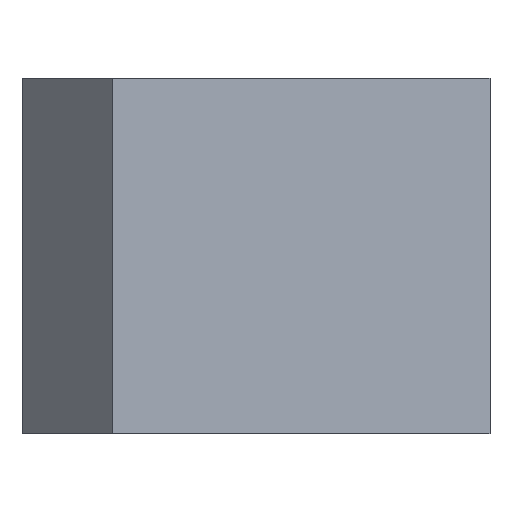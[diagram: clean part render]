
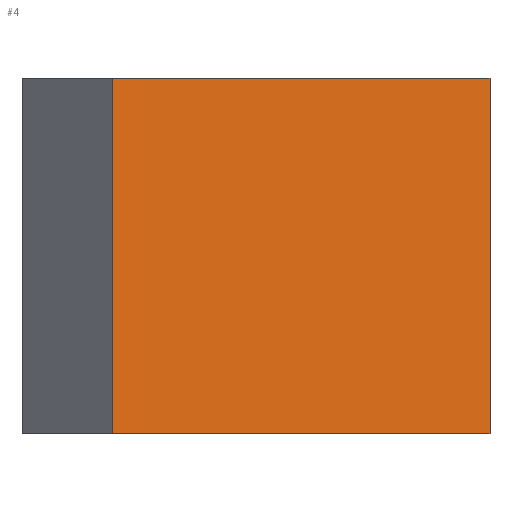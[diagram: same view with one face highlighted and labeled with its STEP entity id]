
A CAD part, left-side view. The second image highlights one B-rep face of the part: STEP entity #4.
In plain terms, the highlighted planar face has unit normal (-0.737, -0.676, 0).
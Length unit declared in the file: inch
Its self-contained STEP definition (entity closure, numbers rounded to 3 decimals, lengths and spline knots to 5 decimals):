
#4 = ADVANCED_FACE ( 'NONE', ( #481 ), #55, .T. ) ;
#11 = EDGE_CURVE ( 'NONE', #213, #404, #250, .T. ) ;
#12 = DIRECTION ( 'NONE',  ( 0.676, -0.737, 0. ) ) ;
#14 = LINE ( 'NONE', #100, #210 ) ;
#35 = ORIENTED_EDGE ( 'NONE', *, *, #11, .F. ) ;
#55 = PLANE ( 'NONE',  #278 ) ;
#61 = DIRECTION ( 'NONE',  ( 0.676, -0.737, 0. ) ) ;
#88 = EDGE_CURVE ( 'NONE', #404, #365, #226, .T. ) ;
#100 = CARTESIAN_POINT ( 'NONE',  ( -4.907, 0., -1. ) ) ;
#115 = EDGE_CURVE ( 'NONE', #370, #365, #14, .T. ) ;
#149 = CARTESIAN_POINT ( 'NONE',  ( -4.907, 0., 0. ) ) ;
#164 = ORIENTED_EDGE ( 'NONE', *, *, #115, .T. ) ;
#178 = DIRECTION ( 'NONE',  ( 0., 0., 1. ) ) ;
#210 = VECTOR ( 'NONE', #178, 39.37008 ) ;
#213 = VERTEX_POINT ( 'NONE', #337 ) ;
#226 = LINE ( 'NONE', #342, #334 ) ;
#250 = LINE ( 'NONE', #485, #414 ) ;
#269 = CARTESIAN_POINT ( 'NONE',  ( -4.907, 0., -1. ) ) ;
#278 = AXIS2_PLACEMENT_3D ( 'NONE', #416, #292, #12 ) ;
#292 = DIRECTION ( 'NONE',  ( -0.737, -0.676, 0. ) ) ;
#295 = VECTOR ( 'NONE', #61, 39.37008 ) ;
#329 = ORIENTED_EDGE ( 'NONE', *, *, #402, .T. ) ;
#332 = DIRECTION ( 'NONE',  ( 0.676, -0.737, 0. ) ) ;
#334 = VECTOR ( 'NONE', #332, 39.37008 ) ;
#337 = CARTESIAN_POINT ( 'NONE',  ( -5.881, 1.061, -1. ) ) ;
#338 = DIRECTION ( 'NONE',  ( 0., 0., 1. ) ) ;
#342 = CARTESIAN_POINT ( 'NONE',  ( -4.907, 0., 0. ) ) ;
#348 = LINE ( 'NONE', #269, #295 ) ;
#364 = EDGE_LOOP ( 'NONE', ( #409, #35, #329, #164 ) ) ;
#365 = VERTEX_POINT ( 'NONE', #149 ) ;
#370 = VERTEX_POINT ( 'NONE', #390 ) ;
#390 = CARTESIAN_POINT ( 'NONE',  ( -4.907, 0., -1. ) ) ;
#402 = EDGE_CURVE ( 'NONE', #213, #370, #348, .T. ) ;
#404 = VERTEX_POINT ( 'NONE', #427 ) ;
#409 = ORIENTED_EDGE ( 'NONE', *, *, #88, .F. ) ;
#414 = VECTOR ( 'NONE', #338, 39.37008 ) ;
#416 = CARTESIAN_POINT ( 'NONE',  ( -4.907, 0., -1. ) ) ;
#427 = CARTESIAN_POINT ( 'NONE',  ( -5.881, 1.061, 0. ) ) ;
#481 = FACE_OUTER_BOUND ( 'NONE', #364, .T. ) ;
#485 = CARTESIAN_POINT ( 'NONE',  ( -5.881, 1.061, -1. ) ) ;
